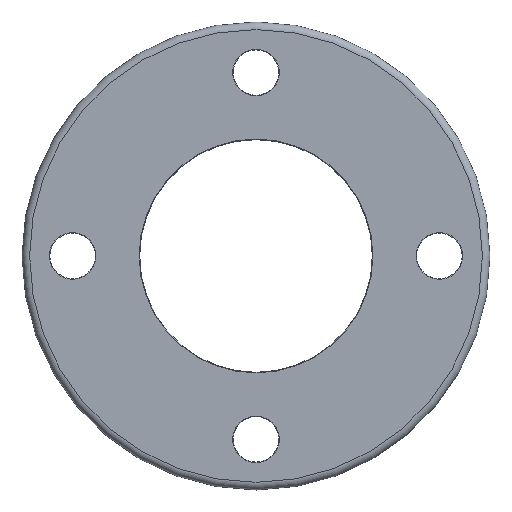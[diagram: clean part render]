
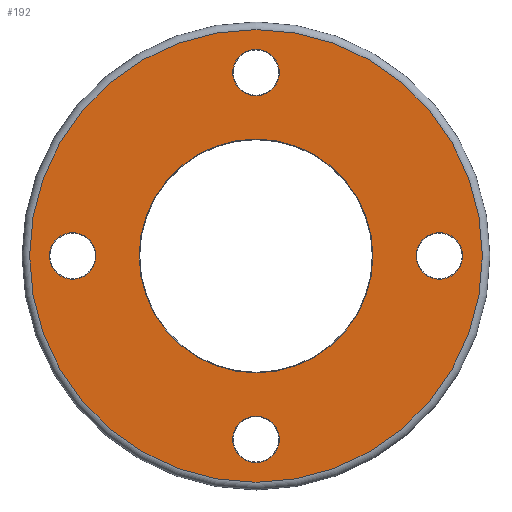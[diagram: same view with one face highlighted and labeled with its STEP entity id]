
A CAD part, top view. The second image highlights one B-rep face of the part: STEP entity #192.
In plain terms, the highlighted planar face has unit normal (0, 0, 1).
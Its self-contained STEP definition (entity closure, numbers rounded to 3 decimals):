
#21=PLANE('',#210);
#24=FACE_BOUND('',#62,.T.);
#25=FACE_BOUND('',#63,.T.);
#26=FACE_BOUND('',#64,.T.);
#27=FACE_BOUND('',#65,.T.);
#28=FACE_BOUND('',#66,.T.);
#46=FACE_OUTER_BOUND('',#61,.T.);
#61=EDGE_LOOP('',(#151));
#62=EDGE_LOOP('',(#152));
#63=EDGE_LOOP('',(#153));
#64=EDGE_LOOP('',(#154));
#65=EDGE_LOOP('',(#155));
#66=EDGE_LOOP('',(#156));
#96=CIRCLE('',#209,46.2);
#97=CIRCLE('',#211,89.5);
#98=CIRCLE('',#212,9.2);
#99=CIRCLE('',#213,9.2);
#100=CIRCLE('',#214,9.2);
#101=CIRCLE('',#215,9.2);
#114=VERTEX_POINT('',#309);
#115=VERTEX_POINT('',#312);
#116=VERTEX_POINT('',#314);
#117=VERTEX_POINT('',#316);
#118=VERTEX_POINT('',#318);
#119=VERTEX_POINT('',#320);
#132=EDGE_CURVE('',#114,#114,#96,.T.);
#133=EDGE_CURVE('',#115,#115,#97,.T.);
#134=EDGE_CURVE('',#116,#116,#98,.T.);
#135=EDGE_CURVE('',#117,#117,#99,.T.);
#136=EDGE_CURVE('',#118,#118,#100,.T.);
#137=EDGE_CURVE('',#119,#119,#101,.T.);
#151=ORIENTED_EDGE('',*,*,#133,.F.);
#152=ORIENTED_EDGE('',*,*,#134,.F.);
#153=ORIENTED_EDGE('',*,*,#135,.F.);
#154=ORIENTED_EDGE('',*,*,#136,.F.);
#155=ORIENTED_EDGE('',*,*,#137,.F.);
#156=ORIENTED_EDGE('',*,*,#132,.F.);
#192=ADVANCED_FACE('',(#46,#24,#25,#26,#27,#28),#21,.T.);
#209=AXIS2_PLACEMENT_3D('',#310,#245,#246);
#210=AXIS2_PLACEMENT_3D('',#311,#247,#248);
#211=AXIS2_PLACEMENT_3D('',#313,#249,#250);
#212=AXIS2_PLACEMENT_3D('',#315,#251,#252);
#213=AXIS2_PLACEMENT_3D('',#317,#253,#254);
#214=AXIS2_PLACEMENT_3D('',#319,#255,#256);
#215=AXIS2_PLACEMENT_3D('',#321,#257,#258);
#245=DIRECTION('center_axis',(0.,0.,1.));
#246=DIRECTION('ref_axis',(-1.,0.,0.));
#247=DIRECTION('center_axis',(0.,0.,1.));
#248=DIRECTION('ref_axis',(1.,0.,0.));
#249=DIRECTION('center_axis',(0.,0.,-1.));
#250=DIRECTION('ref_axis',(-1.,0.,0.));
#251=DIRECTION('center_axis',(0.,0.,1.));
#252=DIRECTION('ref_axis',(1.,0.,0.));
#253=DIRECTION('center_axis',(0.,0.,1.));
#254=DIRECTION('ref_axis',(-1.,0.,0.));
#255=DIRECTION('center_axis',(0.,0.,1.));
#256=DIRECTION('ref_axis',(0.,-1.,0.));
#257=DIRECTION('center_axis',(0.,0.,1.));
#258=DIRECTION('ref_axis',(0.,1.,0.));
#309=CARTESIAN_POINT('',(46.2,0.,19.));
#310=CARTESIAN_POINT('Origin',(0.,0.,19.));
#311=CARTESIAN_POINT('Origin',(0.,0.,
19.));
#312=CARTESIAN_POINT('',(89.5,0.,19.));
#313=CARTESIAN_POINT('Origin',(0.,0.,19.));
#314=CARTESIAN_POINT('',(-9.2,-72.5,19.));
#315=CARTESIAN_POINT('Origin',(0.,-72.5,19.));
#316=CARTESIAN_POINT('',(9.2,72.5,19.));
#317=CARTESIAN_POINT('Origin',(0.,72.5,19.));
#318=CARTESIAN_POINT('',(-72.5,9.2,19.));
#319=CARTESIAN_POINT('Origin',(-72.5,0.,19.));
#320=CARTESIAN_POINT('',(72.5,-9.2,19.));
#321=CARTESIAN_POINT('Origin',(72.5,0.,19.));
